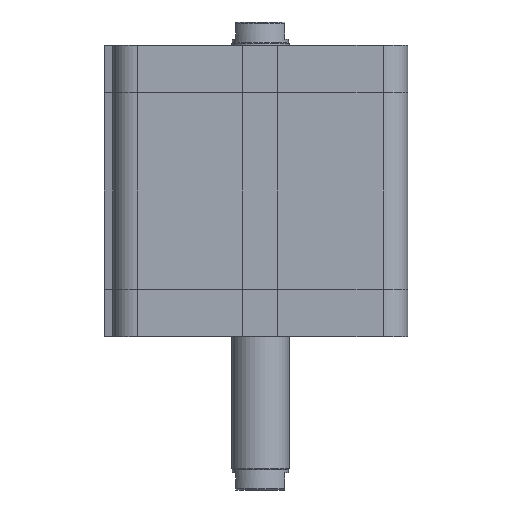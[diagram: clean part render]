
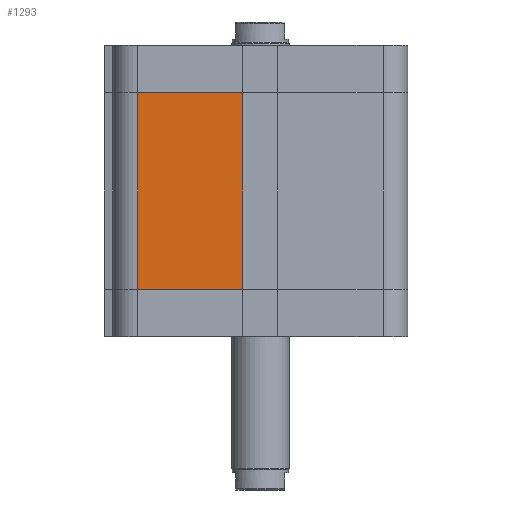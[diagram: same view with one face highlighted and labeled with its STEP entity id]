
A CAD part, left-side view. The second image highlights one B-rep face of the part: STEP entity #1293.
In plain terms, the highlighted planar face has unit normal (-1, 0, 0).
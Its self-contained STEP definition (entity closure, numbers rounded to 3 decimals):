
#1204=CARTESIAN_POINT('',(-51.0,42.5,16.5));
#1205=VERTEX_POINT('',#1204);
#1213=CARTESIAN_POINT('',(-51.0,42.5,84.5));
#1214=VERTEX_POINT('',#1213);
#1215=CARTESIAN_POINT('',(-51.0,42.5,16.5));
#1216=DIRECTION('',(0.0,0.0,1.0));
#1217=VECTOR('',#1216,68.0);
#1218=LINE('',#1215,#1217);
#1219=EDGE_CURVE('',#1205,#1214,#1218,.T.);
#1263=CARTESIAN_POINT('',(-51.,6.,0.0));
#1264=DIRECTION('',(-1.0,0.0,0.0));
#1265=DIRECTION('',(0.0,0.0,1.0));
#1266=AXIS2_PLACEMENT_3D('',#1263,#1264,#1265);
#1267=PLANE('',#1266);
#1268=CARTESIAN_POINT('',(-51.,6.,16.5));
#1269=VERTEX_POINT('',#1268);
#1270=CARTESIAN_POINT('',(-51.0,42.5,16.5));
#1271=DIRECTION('',(0.0,-1.0,0.0));
#1272=VECTOR('',#1271,36.5);
#1273=LINE('',#1270,#1272);
#1274=EDGE_CURVE('',#1205,#1269,#1273,.T.);
#1275=ORIENTED_EDGE('',*,*,#1274,.T.);
#1276=CARTESIAN_POINT('',(-51.,6.,84.5));
#1277=VERTEX_POINT('',#1276);
#1278=CARTESIAN_POINT('',(-51.,6.,16.5));
#1279=DIRECTION('',(0.0,0.0,1.0));
#1280=VECTOR('',#1279,68.0);
#1281=LINE('',#1278,#1280);
#1282=EDGE_CURVE('',#1269,#1277,#1281,.T.);
#1283=ORIENTED_EDGE('',*,*,#1282,.T.);
#1284=CARTESIAN_POINT('',(-51.0,42.5,84.5));
#1285=DIRECTION('',(0.0,-1.0,0.0));
#1286=VECTOR('',#1285,36.5);
#1287=LINE('',#1284,#1286);
#1288=EDGE_CURVE('',#1214,#1277,#1287,.T.);
#1289=ORIENTED_EDGE('',*,*,#1288,.F.);
#1290=ORIENTED_EDGE('',*,*,#1219,.F.);
#1291=EDGE_LOOP('',(#1275,#1283,#1289,#1290));
#1292=FACE_OUTER_BOUND('',#1291,.T.);
#1293=ADVANCED_FACE('',(#1292),#1267,.T.);
